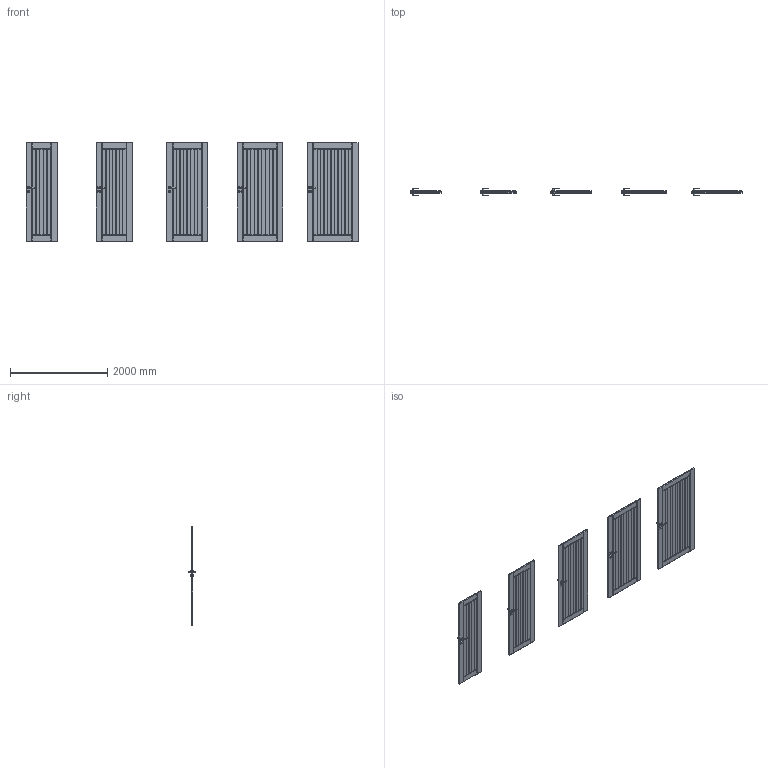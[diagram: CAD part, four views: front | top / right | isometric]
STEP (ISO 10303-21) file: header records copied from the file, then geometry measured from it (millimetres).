
FILE_DESCRIPTION(/* description */ (''),/* implementation_level */ '2;1');
FILE_NAME(/* name */ '049854_A_2-Skrzydło OSLO model 1_ polska norma _PN__ odwrotna przylga..stp',/* time_stamp */ '2024-09-03T12:41:10+02:00',/* author */ (''),/* organization */ (''),/* preprocessor_version */ 'ST-DEVELOPER v16',/* originating_system */ 'SIEMENS PLM Software NX 11.0',/* authorisation */ '');
FILE_SCHEMA (('AUTOMOTIVE_DESIGN { 1 0 10303 214 3 1 1 1 }'));
Products named in the file (1): bkni2A047F3F88dz
Bounding box: 6839 x 153.13 x 2027 mm (x, y, z)
Volume: 330718430.5 mm3; surface area: 18496186.2 mm2
Topology: 25 solids, 25 shells, 2570 faces, 6650 edges, 4040 vertices
Faces by surface type: plane 1110, cylinder 880, bspline 160, sphere 140, cone 140, torus 140
Entity records: 87916 total; most frequent: CARTESIAN_POINT 27008, ORIENTED_EDGE 13020, DIRECTION 12372, EDGE_CURVE 6510, AXIS2_PLACEMENT_3D 4451, VERTEX_POINT 4040, LINE 3470, VECTOR 3470
